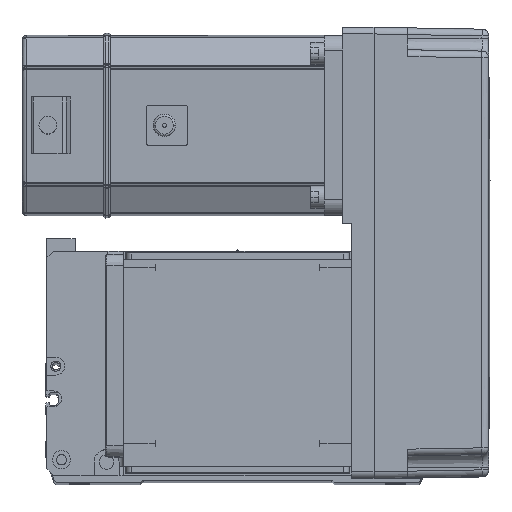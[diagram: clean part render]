
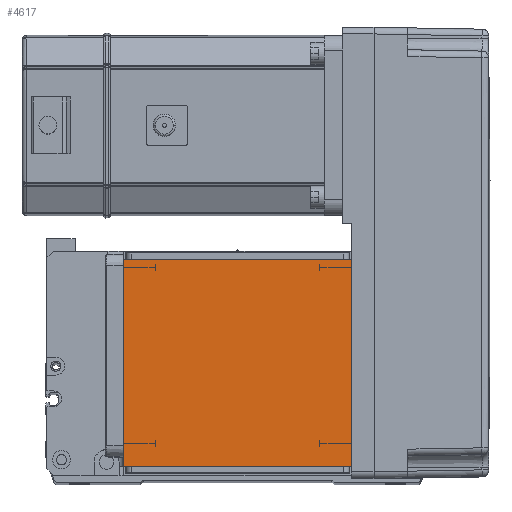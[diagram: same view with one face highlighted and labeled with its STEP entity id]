
A CAD part, top view. The second image highlights one B-rep face of the part: STEP entity #4617.
In plain terms, the highlighted planar face has unit normal (0, 0, 1).
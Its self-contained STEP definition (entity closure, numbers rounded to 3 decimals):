
#128 = DIRECTION ( 'NONE',  ( 0., -1., 0. ) ) ;
#474 = ORIENTED_EDGE ( 'NONE', *, *, #48338, .T. ) ;
#509 = CARTESIAN_POINT ( 'NONE',  ( 50.5, 111.5, 115. ) ) ;
#2053 = CARTESIAN_POINT ( 'NONE',  ( -70.004, 20., 115. ) ) ;
#2171 = DIRECTION ( 'NONE',  ( 0., 0., 1. ) ) ;
#2310 = VECTOR ( 'NONE', #35362, 1000. ) ;
#4617 = ADVANCED_FACE ( 'NONE', ( #54226 ), #49980, .T. ) ;
#4918 = CARTESIAN_POINT ( 'NONE',  ( 50.5, 122., 115. ) ) ;
#6259 = DIRECTION ( 'NONE',  ( -1., 0., 0. ) ) ;
#6325 = ORIENTED_EDGE ( 'NONE', *, *, #44089, .F. ) ;
#7927 = CARTESIAN_POINT ( 'NONE',  ( -50.5, 20., 115. ) ) ;
#9850 = EDGE_CURVE ( 'NONE', #32518, #35262, #55138, .T. ) ;
#9876 = CARTESIAN_POINT ( 'NONE',  ( -70.004, 111.5, 115. ) ) ;
#13099 = CARTESIAN_POINT ( 'NONE',  ( -50.5, 122., 115. ) ) ;
#13846 = ORIENTED_EDGE ( 'NONE', *, *, #9850, .T. ) ;
#14852 = CARTESIAN_POINT ( 'NONE',  ( 50.5, 20., 115. ) ) ;
#14946 = EDGE_CURVE ( 'NONE', #32518, #16810, #44392, .T. ) ;
#15928 = LINE ( 'NONE', #4918, #2310 ) ;
#16810 = VERTEX_POINT ( 'NONE', #509 ) ;
#21600 = CARTESIAN_POINT ( 'NONE',  ( -50.5, 111.5, 115. ) ) ;
#22525 = EDGE_LOOP ( 'NONE', ( #42549, #13846, #6325, #474 ) ) ;
#27932 = LINE ( 'NONE', #2053, #53801 ) ;
#31484 = DIRECTION ( 'NONE',  ( 1., 0., 0. ) ) ;
#32518 = VERTEX_POINT ( 'NONE', #21600 ) ;
#32673 = DIRECTION ( 'NONE',  ( 1., 0., 0. ) ) ;
#35262 = VERTEX_POINT ( 'NONE', #7927 ) ;
#35362 = DIRECTION ( 'NONE',  ( 0., 1., 0. ) ) ;
#35818 = VERTEX_POINT ( 'NONE', #14852 ) ;
#37904 = AXIS2_PLACEMENT_3D ( 'NONE', #54328, #2171, #32673 ) ;
#42549 = ORIENTED_EDGE ( 'NONE', *, *, #14946, .F. ) ;
#43551 = VECTOR ( 'NONE', #128, 1000. ) ;
#44089 = EDGE_CURVE ( 'NONE', #35818, #35262, #27932, .T. ) ;
#44392 = LINE ( 'NONE', #9876, #45756 ) ;
#45756 = VECTOR ( 'NONE', #31484, 1000. ) ;
#48338 = EDGE_CURVE ( 'NONE', #35818, #16810, #15928, .T. ) ;
#49980 = PLANE ( 'NONE',  #37904 ) ;
#53801 = VECTOR ( 'NONE', #6259, 1000. ) ;
#54226 = FACE_OUTER_BOUND ( 'NONE', #22525, .T. ) ;
#54328 = CARTESIAN_POINT ( 'NONE',  ( 0., 0., 115. ) ) ;
#55138 = LINE ( 'NONE', #13099, #43551 ) ;
